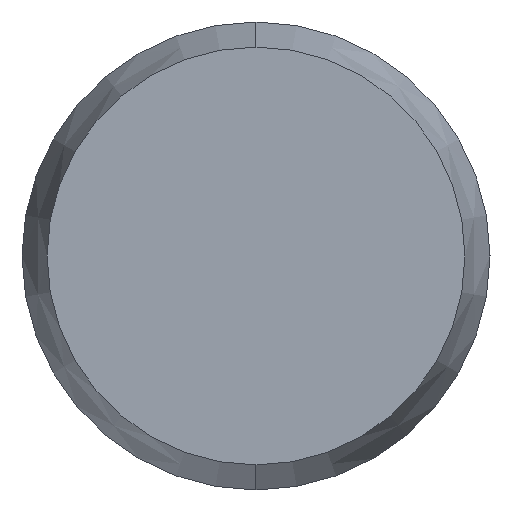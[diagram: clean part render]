
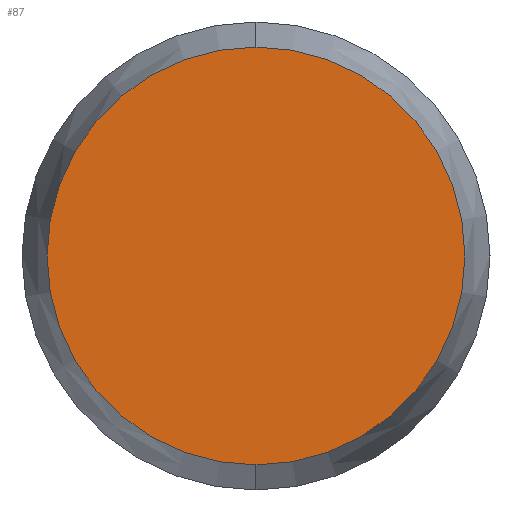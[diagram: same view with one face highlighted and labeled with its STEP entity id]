
A CAD part, left-side view. The second image highlights one B-rep face of the part: STEP entity #87.
In plain terms, the highlighted planar face has unit normal (-1, 0, 0).
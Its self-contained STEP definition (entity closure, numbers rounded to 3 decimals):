
#84 = EDGE_CURVE ( 'NONE', #95, #97, #220, .T. ) ;
#87 = ADVANCED_FACE ( 'NONE', ( #216 ), #211, .F. ) ;
#88 = EDGE_LOOP ( 'NONE', ( #89, #90 ) ) ;
#89 = ORIENTED_EDGE ( 'NONE', *, *, #96, .F. ) ;
#90 = ORIENTED_EDGE ( 'NONE', *, *, #84, .F. ) ;
#95 = VERTEX_POINT ( 'NONE', #201 ) ;
#96 = EDGE_CURVE ( 'NONE', #97, #95, #200, .T. ) ;
#97 = VERTEX_POINT ( 'NONE', #195 ) ;
#195 = CARTESIAN_POINT ( 'NONE',  ( -1.5, 0., 0.446 ) ) ;
#196 = DIRECTION ( 'NONE',  ( 0., 0., -1. ) ) ;
#197 = DIRECTION ( 'NONE',  ( 1., 0., 0. ) ) ;
#198 = CARTESIAN_POINT ( 'NONE',  ( -1.5, 0., 0. ) ) ;
#199 = AXIS2_PLACEMENT_3D ( 'NONE', #198, #197, #196 ) ;
#200 = CIRCLE ( 'NONE', #199, 0.446 ) ;
#201 = CARTESIAN_POINT ( 'NONE',  ( -1.5, 0., -0.446 ) ) ;
#207 = DIRECTION ( 'NONE',  ( 0., 0., -1. ) ) ;
#208 = DIRECTION ( 'NONE',  ( 1., 0., 0. ) ) ;
#209 = CARTESIAN_POINT ( 'NONE',  ( -1.5, 0., 0. ) ) ;
#210 = AXIS2_PLACEMENT_3D ( 'NONE', #209, #208, #207 ) ;
#211 = PLANE ( 'NONE',  #210 ) ;
#212 = DIRECTION ( 'NONE',  ( 0., 0., -1. ) ) ;
#213 = DIRECTION ( 'NONE',  ( 1., 0., 0. ) ) ;
#214 = CARTESIAN_POINT ( 'NONE',  ( -1.5, 0., 0. ) ) ;
#215 = AXIS2_PLACEMENT_3D ( 'NONE', #214, #213, #212 ) ;
#216 = FACE_OUTER_BOUND ( 'NONE', #88, .T. ) ;
#220 = CIRCLE ( 'NONE', #215, 0.446 ) ;
